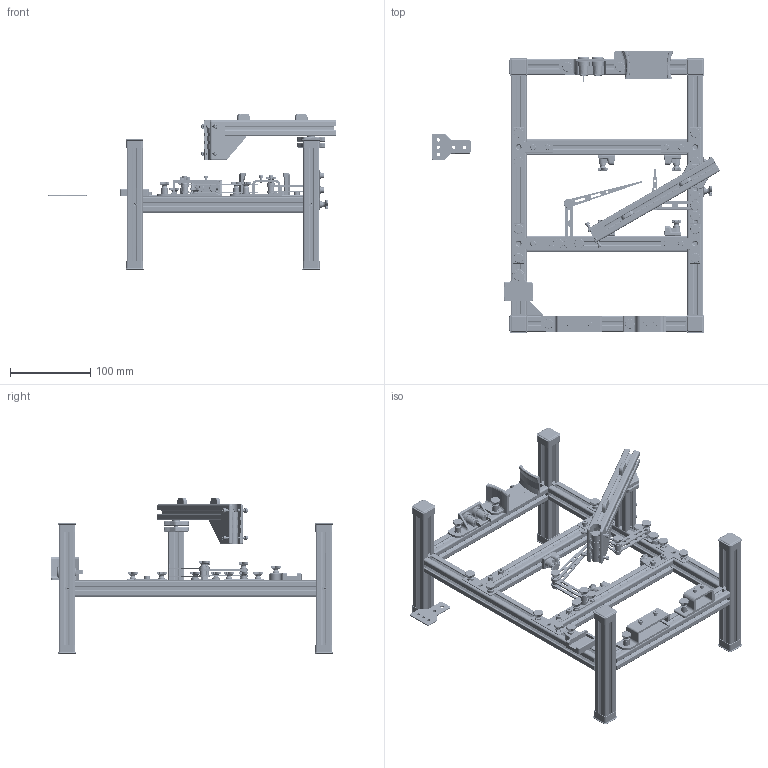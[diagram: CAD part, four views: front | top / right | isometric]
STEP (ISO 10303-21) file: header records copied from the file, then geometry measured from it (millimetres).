
FILE_DESCRIPTION(('Creo Elements/Direct Modeling STEP Export'),'2;1');
FILE_NAME('Bestueckungsrahmen.stp','2018-06-04T11:27:26',(''),(''),'PTC Creo Elements/Direct Modeling STEP processor for AP214 (Solid Model)','PTC Creo Elements/Direct Modeling 19.0A 04-Oct-2014 (C) Parametric Technology GmbH','');
FILE_SCHEMA(('AUTOMOTIVE_DESIGN { 1 0 10303 214 1 1 1 1 }'));
Length unit declared in the file: millimetre
Products named in the file (65): Profil_2020_Baureihe_5_200mm; Profil_2020_Baureihe_5_300mm; Profil_2020_Baureihe_5_160mm.3; T_Verbinder_Metall; Schraube_M_4x8_DIN_912; Scheibe_B_4_3_DIN_125; Raendelschraube_M4x8; Abdeckkappe; Profilverbinder; Nutenstein_5_M4; Schraube_M_5x16_DIN_965; Grundrahmen; usb_holder; Zylinderschraube_M3x3_DIN_912_Kopf_abgedreht.1; Raendelschraube_M4x16; Distanzhuelse_M4x5mm; Schraube_M_3x6_DIN_912; Halter_USB_Hub_Logilink_Smile; 23_3060-25_BANANA_SOCKET_HOUSIN.PRT; 23_3060-25_BANANA_SOCKET_WASHER.PRT; 23_3060-25_BANANA_SOCKET_PIN.PRT; 23_3060-25_BANANA_SOCKET_NUT.PRT; Laborsteckerbuchse_SW; Laborsteckerbuchse_RT; Supply_Holder; Laborstecker_Stromversorgung; avrISPmkII_holder; Halter_AVR_ISP_mkII; Logicanalizer_Holder; Halter_Logic_Analyzer; Sechskantmutter_M4_DIN_934; Probe_Mittenteil.1; Probe_Fussteil; Probe_Spitzenteil_lang; Ferderpruefstift; Scheibe_B_5_3_DIN_125.1; Probe_lang; Probe_Spitzenteil_kurz.1; Probe_kurz; Aufnahme_Tastkopf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
Assembly tree (241 placements, depth 4):
  Bestueckungsrahmen
    Alternativteile
      Abdeckkappe_gedruckt.3  x8
      Nutenstein
      winkel_profil.3
      T_Verbinder_Druckteil
    Platinenhalter.3  x4
      Nutenstein_5_M4
      Raendelschraube_M4x16
      Scheibe_B_4_3_DIN_125
      platinenhalter
    Halter_CH340G
      Nutenstein_5_M4
      Scheibe_B_4_3_DIN_125
      Raendelschraube_M4x16
      Ch340G_Board_holder
    Tastkopfhalter
      Schraube_M_5x12_DIN_965
      Nutenstein_5_M4  x2
      Raendelschraube_M4x8  x2
      Scheibe_B_4_3_DIN_125  x6
      Mutter_M_5_DIN_934.1.1  x2
      Scheibe_B_5_3_DIN_125.1  x2
      Schraube_M_5x30_DIN_965
      Schraube_M_3x10_DIN_912.2  x4
      Schraube_M_4x8_DIN_912  x4
      Schraube_M_3x6_DIN_912  x2
      T_Verbinder_Metall
      Schieber  x2
      Feststellmutter  x2
      Profil_2020_Baureihe_5_60mm
      Profil_2020_Baureihe_5_160mm
      Tastkopf_dummy
      Winkel_lang
      Aufnahme_Tastkopf
    Probe_kurz
      Nutenstein_5_M4  x2
      Scheibe_B_5_3_DIN_125.1  x5
      Sechskantmutter_M4_DIN_934  x2
      Distanzhuelse_M4x5mm  x2
      Raendelschraube_M4x8  x2
      Raendelschraube_M4x16  x2
      Probe_Mittenteil.1  x2
      Probe_Spitzenteil_kurz.1  x2
      Probe_Fussteil
      Ferderpruefstift
    Probe_lang
      Nutenstein_5_M4  x2
      Scheibe_B_5_3_DIN_125.1  x5
      Distanzhuelse_M4x5mm  x2
      Raendelschraube_M4x16  x2
      Sechskantmutter_M4_DIN_934  x2
      Raendelschraube_M4x8  x2
      Ferderpruefstift
      Probe_Spitzenteil_lang  x2
      Probe_Fussteil
      Probe_Mittenteil.1  x2
    Halter_Logic_Analyzer
      Nutenstein_5_M4
      Schraube_M_3x6_DIN_912  x2
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Bounding box: 358.98 x 351.5 x 195.2 mm (x, y, z)
Volume: 583915.7 mm3; surface area: 557348.1 mm2
Topology: 237 solids, 237 shells, 15350 faces, 42921 edges, 28070 vertices
Faces by surface type: plane 11904, cylinder 2586, torus 374, cone 322, bspline 72, revolution 54, sphere 34, extrusion 4
Entity records: 150011 total; most frequent: CARTESIAN_POINT 90358, ORIENTED_EDGE 12472, DIRECTION 10383, EDGE_CURVE 6236, VERTEX_POINT 4028, AXIS2_PLACEMENT_3D 3701, VECTOR 2977, LINE 2975
